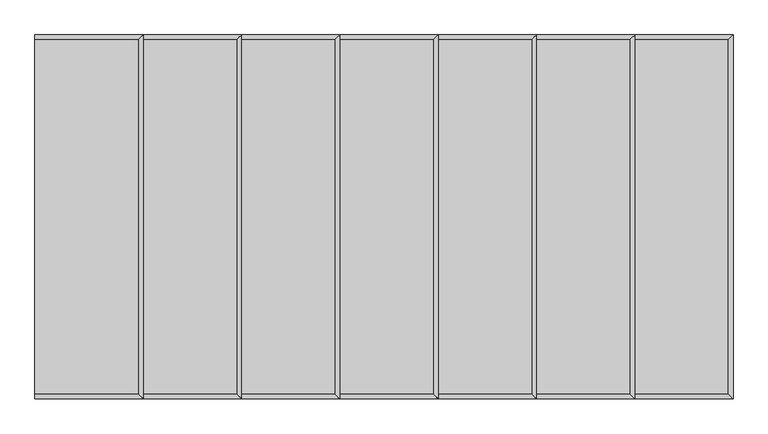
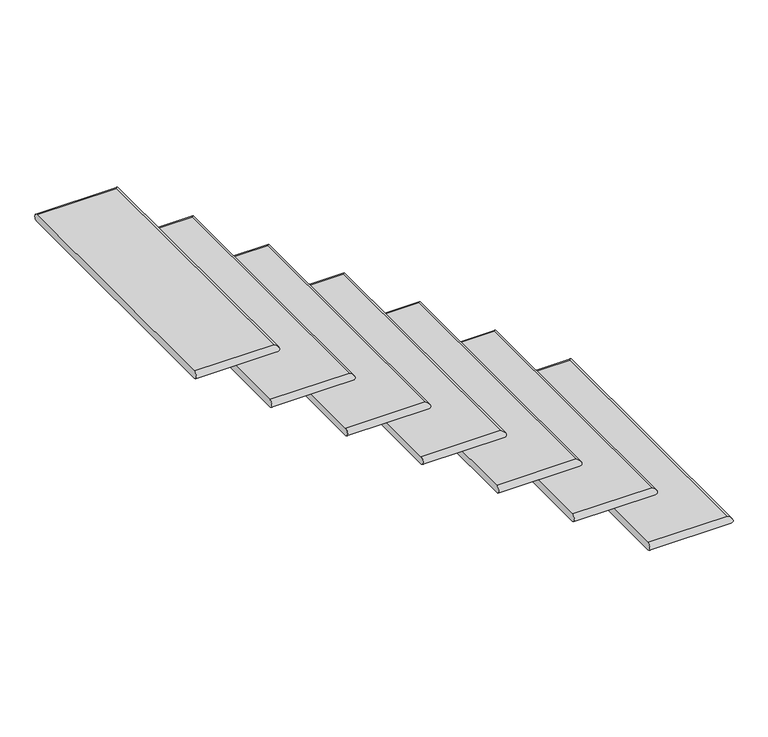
"""IFC4 building model written with IfcOpenShell, lengths in millimetres: stair flight geometry."""

from ifc_helpers import new_model, si_unit, frame, origin, place, context, project, spatial, circle_curve, ellipse_curve, source, transform, mapped, element, save
from ifc_brep_helpers import plane_surface, cylinder_surface, advanced_brep


def stair_flight_a4a1ad23(model_context):
    return source(origin(), model_context, "Body", "AdvancedBrep", [
        advanced_brep(
        [(-16016.7481446, -9150.4871906, 1689.1), (-16016.7481446, -9150.4871906, 1714.5), (-16016.7481446, -10064.8871906, 1714.5), (-16016.7481446, -10064.8871906, 1689.1), (-16283.4481446, -9150.4871906, 1714.5), (-16283.4481446, -10064.8871906, 1714.5), (-16283.4481446, -10064.8871906, 1689.1), (-16283.4481446, -9150.4871906, 1689.1)],
        [
            (0, 1, ellipse_curve(frame((-16016.7481446, -9150.4871906, 1701.8), z_axis=(0.7071067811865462, -0.7071067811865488, 0.0), x_axis=(0.7071067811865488, 0.7071067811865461, 0.0)), 17.9605122, 12.7)),
            (1, 2),
            (2, 3, ellipse_curve(frame((-16016.7481446, -10064.8871906, 1701.8), z_axis=(0.7071067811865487, 0.7071067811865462, 0.0), x_axis=(-0.7071067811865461, 0.7071067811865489, 0.0)), 17.9605122, 12.7)),
            (3, 0),
            (4, 5),
            (5, 2),
            (1, 4),
            (6, 7),
            (7, 0),
            (3, 6),
            (4, 7, circle_curve(frame((-16283.4481446, -9150.4871906, 1701.8), z_axis=(-1.0, 0.0, 0.0), x_axis=(0.0, -1.0, 0.0)), 12.7)),
            (6, 5, circle_curve(frame((-16283.4481446, -10064.8871906, 1701.8), z_axis=(-1.0, 0.0, 0.0), x_axis=(0.0, 1.0, 0.0)), 12.7)),
        ],
        [
            cylinder_surface(frame((-16016.7481446, -9150.4871906, 1701.8), z_axis=(0.0, 1.0, 0.0), x_axis=(-1.0, 0.0, 0.0)), 12.7),
            plane_surface(frame((-16004.0481446, -10064.8871906, 1714.5), z_axis=(0.0, 0.0, 1.0), x_axis=(1.0, 0.0, 0.0))),
            plane_surface(frame((-16004.0481446, -10064.8871906, 1689.1), z_axis=(0.0, 0.0, -1.0), x_axis=(-1.0, 0.0, 0.0))),
            plane_surface(frame((-16283.4481446, -9150.4871906, 1714.5), z_axis=(-1.0, 0.0, 0.0), x_axis=(0.0, 0.0, -1.0))),
            cylinder_surface(frame((-16283.4481446, -9150.4871906, 1701.8), z_axis=(-1.0, 0.0, 0.0), x_axis=(0.0, -1.0, 0.0)), 12.7),
            cylinder_surface(frame((-16016.7481446, -10064.8871906, 1701.8), z_axis=(1.0, 0.0, 0.0), x_axis=(0.0, 1.0, 0.0)), 12.7),
        ],
        [
            (0, [[1, 2, 3, 4]]),
            (1, [[5, 6, -2, 7]]),
            (2, [[8, 9, -4, 10]]),
            (3, [[-5, 11, -8, 12]]),
            (4, [[-11, -7, -1, -9]]),
            (5, [[-3, -6, -12, -10]]),
        ],
    ),
        advanced_brep(
        [(-16537.4481446, -9150.4871906, 1905.0), (-16537.4481446, -10064.8871906, 1905.0), (-16270.7481446, -10064.8871906, 1905.0), (-16270.7481446, -9150.4871906, 1905.0), (-16537.4481446, -10064.8871906, 1879.6), (-16537.4481446, -9150.4871906, 1879.6), (-16270.7481446, -9150.4871906, 1879.6), (-16270.7481446, -10064.8871906, 1879.6)],
        [
            (0, 1),
            (1, 2),
            (2, 3),
            (3, 0),
            (4, 5),
            (5, 6),
            (6, 7),
            (7, 4),
            (0, 5, circle_curve(frame((-16537.4481446, -9150.4871906, 1892.3), z_axis=(-1.0, 0.0, 0.0), x_axis=(0.0, -1.0, 0.0)), 12.7)),
            (4, 1, circle_curve(frame((-16537.4481446, -10064.8871906, 1892.3), z_axis=(-1.0, 0.0, 0.0), x_axis=(0.0, 1.0, 0.0)), 12.7)),
            (6, 3, ellipse_curve(frame((-16270.7481446, -9150.4871906, 1892.3), z_axis=(0.7071067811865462, -0.7071067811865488, 0.0), x_axis=(0.7071067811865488, 0.7071067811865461, 0.0)), 17.9605122, 12.7)),
            (2, 7, ellipse_curve(frame((-16270.7481446, -10064.8871906, 1892.3), z_axis=(0.7071067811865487, 0.7071067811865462, 0.0), x_axis=(-0.7071067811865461, 0.7071067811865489, 0.0)), 17.9605122, 12.7)),
        ],
        [
            plane_surface(frame((-16258.0481446, -10064.8871906, 1905.0), z_axis=(0.0, 0.0, 1.0), x_axis=(1.0, 0.0, 0.0))),
            plane_surface(frame((-16258.0481446, -10064.8871906, 1879.6), z_axis=(0.0, 0.0, -1.0), x_axis=(-1.0, 0.0, 0.0))),
            plane_surface(frame((-16537.4481446, -9150.4871906, 1905.0), z_axis=(-1.0, 0.0, 0.0), x_axis=(0.0, 0.0, -1.0))),
            cylinder_surface(frame((-16270.7481446, -9150.4871906, 1892.3), z_axis=(0.0, 1.0, 0.0), x_axis=(-1.0, 0.0, 0.0)), 12.7),
            cylinder_surface(frame((-16537.4481446, -9150.4871906, 1892.3), z_axis=(-1.0, 0.0, 0.0), x_axis=(0.0, -1.0, 0.0)), 12.7),
            cylinder_surface(frame((-16270.7481446, -10064.8871906, 1892.3), z_axis=(1.0, 0.0, 0.0), x_axis=(0.0, 1.0, 0.0)), 12.7),
        ],
        [
            (0, [[1, 2, 3, 4]]),
            (1, [[5, 6, 7, 8]]),
            (2, [[-1, 9, -5, 10]]),
            (3, [[11, -3, 12, -7]]),
            (4, [[-9, -4, -11, -6]]),
            (5, [[-12, -2, -10, -8]]),
        ],
    ),
        advanced_brep(
        [(-16791.4481446, -9150.4871906, 2095.5), (-16791.4481446, -10064.8871906, 2095.5), (-16524.7481446, -10064.8871906, 2095.5), (-16524.7481446, -9150.4871906, 2095.5), (-16791.4481446, -10064.8871906, 2070.1), (-16791.4481446, -9150.4871906, 2070.1), (-16524.7481446, -9150.4871906, 2070.1), (-16524.7481446, -10064.8871906, 2070.1)],
        [
            (0, 1),
            (1, 2),
            (2, 3),
            (3, 0),
            (4, 5),
            (5, 6),
            (6, 7),
            (7, 4),
            (0, 5, circle_curve(frame((-16791.4481446, -9150.4871906, 2082.8), z_axis=(-1.0, 0.0, 0.0), x_axis=(0.0, -1.0, 0.0)), 12.7)),
            (4, 1, circle_curve(frame((-16791.4481446, -10064.8871906, 2082.8), z_axis=(-1.0, 0.0, 0.0), x_axis=(0.0, 1.0, 0.0)), 12.7)),
            (6, 3, ellipse_curve(frame((-16524.7481446, -9150.4871906, 2082.8), z_axis=(0.7071067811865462, -0.7071067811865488, 0.0), x_axis=(0.7071067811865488, 0.7071067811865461, 0.0)), 17.9605122, 12.7)),
            (2, 7, ellipse_curve(frame((-16524.7481446, -10064.8871906, 2082.8), z_axis=(0.7071067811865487, 0.7071067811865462, 0.0), x_axis=(-0.7071067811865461, 0.7071067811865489, 0.0)), 17.9605122, 12.7)),
        ],
        [
            plane_surface(frame((-16512.0481446, -10064.8871906, 2095.5), z_axis=(0.0, 0.0, 1.0), x_axis=(1.0, 0.0, 0.0))),
            plane_surface(frame((-16512.0481446, -10064.8871906, 2070.1), z_axis=(0.0, 0.0, -1.0), x_axis=(-1.0, 0.0, 0.0))),
            plane_surface(frame((-16791.4481446, -9150.4871906, 2095.5), z_axis=(-1.0, 0.0, 0.0), x_axis=(0.0, 0.0, -1.0))),
            cylinder_surface(frame((-16524.7481446, -9150.4871906, 2082.8), z_axis=(0.0, 1.0, 0.0), x_axis=(-1.0, 0.0, 0.0)), 12.7),
            cylinder_surface(frame((-16791.4481446, -9150.4871906, 2082.8), z_axis=(-1.0, 0.0, 0.0), x_axis=(0.0, -1.0, 0.0)), 12.7),
            cylinder_surface(frame((-16524.7481446, -10064.8871906, 2082.8), z_axis=(1.0, 0.0, 0.0), x_axis=(0.0, 1.0, 0.0)), 12.7),
        ],
        [
            (0, [[1, 2, 3, 4]]),
            (1, [[5, 6, 7, 8]]),
            (2, [[-1, 9, -5, 10]]),
            (3, [[11, -3, 12, -7]]),
            (4, [[-9, -4, -11, -6]]),
            (5, [[-12, -2, -10, -8]]),
        ],
    ),
        advanced_brep(
        [(-17045.4481446, -9150.4871906, 2286.0), (-17045.4481446, -10064.8871906, 2286.0), (-16778.7481446, -10064.8871906, 2286.0), (-16778.7481446, -9150.4871906, 2286.0), (-17045.4481446, -10064.8871906, 2260.6), (-17045.4481446, -9150.4871906, 2260.6), (-16778.7481446, -9150.4871906, 2260.6), (-16778.7481446, -10064.8871906, 2260.6)],
        [
            (0, 1),
            (1, 2),
            (2, 3),
            (3, 0),
            (4, 5),
            (5, 6),
            (6, 7),
            (7, 4),
            (0, 5, circle_curve(frame((-17045.4481446, -9150.4871906, 2273.3), z_axis=(-1.0, 0.0, 0.0), x_axis=(0.0, -1.0, 0.0)), 12.7)),
            (4, 1, circle_curve(frame((-17045.4481446, -10064.8871906, 2273.3), z_axis=(-1.0, 0.0, 0.0), x_axis=(0.0, 1.0, 0.0)), 12.7)),
            (6, 3, ellipse_curve(frame((-16778.7481446, -9150.4871906, 2273.3), z_axis=(0.7071067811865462, -0.7071067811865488, 0.0), x_axis=(0.7071067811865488, 0.7071067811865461, 0.0)), 17.9605122, 12.7)),
            (2, 7, ellipse_curve(frame((-16778.7481446, -10064.8871906, 2273.3), z_axis=(0.7071067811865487, 0.7071067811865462, 0.0), x_axis=(-0.7071067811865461, 0.7071067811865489, 0.0)), 17.9605122, 12.7)),
        ],
        [
            plane_surface(frame((-16766.0481446, -10064.8871906, 2286.0), z_axis=(0.0, 0.0, 1.0), x_axis=(1.0, 0.0, 0.0))),
            plane_surface(frame((-16766.0481446, -10064.8871906, 2260.6), z_axis=(0.0, 0.0, -1.0), x_axis=(-1.0, 0.0, 0.0))),
            plane_surface(frame((-17045.4481446, -9150.4871906, 2286.0), z_axis=(-1.0, 0.0, 0.0), x_axis=(0.0, 0.0, -1.0))),
            cylinder_surface(frame((-16778.7481446, -9150.4871906, 2273.3), z_axis=(0.0, 1.0, 0.0), x_axis=(-1.0, 0.0, 0.0)), 12.7),
            cylinder_surface(frame((-17045.4481446, -9150.4871906, 2273.3), z_axis=(-1.0, 0.0, 0.0), x_axis=(0.0, -1.0, 0.0)), 12.7),
            cylinder_surface(frame((-16778.7481446, -10064.8871906, 2273.3), z_axis=(1.0, 0.0, 0.0), x_axis=(0.0, 1.0, 0.0)), 12.7),
        ],
        [
            (0, [[1, 2, 3, 4]]),
            (1, [[5, 6, 7, 8]]),
            (2, [[-1, 9, -5, 10]]),
            (3, [[11, -3, 12, -7]]),
            (4, [[-9, -4, -11, -6]]),
            (5, [[-12, -2, -10, -8]]),
        ],
    ),
        advanced_brep(
        [(-17299.4481446, -9150.4871906, 2476.5), (-17299.4481446, -10064.8871906, 2476.5), (-17032.7481446, -10064.8871906, 2476.5), (-17032.7481446, -9150.4871906, 2476.5), (-17299.4481446, -10064.8871906, 2451.1), (-17299.4481446, -9150.4871906, 2451.1), (-17032.7481446, -9150.4871906, 2451.1), (-17032.7481446, -10064.8871906, 2451.1)],
        [
            (0, 1),
            (1, 2),
            (2, 3),
            (3, 0),
            (4, 5),
            (5, 6),
            (6, 7),
            (7, 4),
            (0, 5, circle_curve(frame((-17299.4481446, -9150.4871906, 2463.8), z_axis=(-1.0, 0.0, 0.0), x_axis=(0.0, -1.0, 0.0)), 12.7)),
            (4, 1, circle_curve(frame((-17299.4481446, -10064.8871906, 2463.8), z_axis=(-1.0, 0.0, 0.0), x_axis=(0.0, 1.0, 0.0)), 12.7)),
            (6, 3, ellipse_curve(frame((-17032.7481446, -9150.4871906, 2463.8), z_axis=(0.7071067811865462, -0.7071067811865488, 0.0), x_axis=(0.7071067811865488, 0.7071067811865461, 0.0)), 17.9605122, 12.7)),
            (2, 7, ellipse_curve(frame((-17032.7481446, -10064.8871906, 2463.8), z_axis=(0.7071067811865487, 0.7071067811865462, 0.0), x_axis=(-0.7071067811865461, 0.7071067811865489, 0.0)), 17.9605122, 12.7)),
        ],
        [
            plane_surface(frame((-17020.0481446, -10064.8871906, 2476.5), z_axis=(0.0, 0.0, 1.0), x_axis=(1.0, 0.0, 0.0))),
            plane_surface(frame((-17020.0481446, -10064.8871906, 2451.1), z_axis=(0.0, 0.0, -1.0), x_axis=(-1.0, 0.0, 0.0))),
            plane_surface(frame((-17299.4481446, -9150.4871906, 2476.5), z_axis=(-1.0, 0.0, 0.0), x_axis=(0.0, 0.0, -1.0))),
            cylinder_surface(frame((-17032.7481446, -9150.4871906, 2463.8), z_axis=(0.0, 1.0, 0.0), x_axis=(-1.0, 0.0, 0.0)), 12.7),
            cylinder_surface(frame((-17299.4481446, -9150.4871906, 2463.8), z_axis=(-1.0, 0.0, 0.0), x_axis=(0.0, -1.0, 0.0)), 12.7),
            cylinder_surface(frame((-17032.7481446, -10064.8871906, 2463.8), z_axis=(1.0, 0.0, 0.0), x_axis=(0.0, 1.0, 0.0)), 12.7),
        ],
        [
            (0, [[1, 2, 3, 4]]),
            (1, [[5, 6, 7, 8]]),
            (2, [[-1, 9, -5, 10]]),
            (3, [[11, -3, 12, -7]]),
            (4, [[-9, -4, -11, -6]]),
            (5, [[-12, -2, -10, -8]]),
        ],
    ),
        advanced_brep(
        [(-17553.4481446, -9150.4871906, 2667.0), (-17553.4481446, -10064.8871906, 2667.0), (-17286.7481446, -10064.8871906, 2667.0), (-17286.7481446, -9150.4871906, 2667.0), (-17553.4481446, -10064.8871906, 2641.6), (-17553.4481446, -9150.4871906, 2641.6), (-17286.7481446, -9150.4871906, 2641.6), (-17286.7481446, -10064.8871906, 2641.6)],
        [
            (0, 1),
            (1, 2),
            (2, 3),
            (3, 0),
            (4, 5),
            (5, 6),
            (6, 7),
            (7, 4),
            (0, 5, circle_curve(frame((-17553.4481446, -9150.4871906, 2654.3), z_axis=(-1.0, 0.0, 0.0), x_axis=(0.0, -1.0, 0.0)), 12.7)),
            (4, 1, circle_curve(frame((-17553.4481446, -10064.8871906, 2654.3), z_axis=(-1.0, 0.0, 0.0), x_axis=(0.0, 1.0, 0.0)), 12.7)),
            (6, 3, ellipse_curve(frame((-17286.7481446, -9150.4871906, 2654.3), z_axis=(0.7071067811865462, -0.7071067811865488, 0.0), x_axis=(0.7071067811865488, 0.7071067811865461, 0.0)), 17.9605122, 12.7)),
            (2, 7, ellipse_curve(frame((-17286.7481446, -10064.8871906, 2654.3), z_axis=(0.7071067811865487, 0.7071067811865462, 0.0), x_axis=(-0.7071067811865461, 0.7071067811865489, 0.0)), 17.9605122, 12.7)),
        ],
        [
            plane_surface(frame((-17274.0481446, -10064.8871906, 2667.0), z_axis=(0.0, 0.0, 1.0), x_axis=(1.0, 0.0, 0.0))),
            plane_surface(frame((-17274.0481446, -10064.8871906, 2641.6), z_axis=(0.0, 0.0, -1.0), x_axis=(-1.0, 0.0, 0.0))),
            plane_surface(frame((-17553.4481446, -9150.4871906, 2667.0), z_axis=(-1.0, 0.0, 0.0), x_axis=(0.0, 0.0, -1.0))),
            cylinder_surface(frame((-17286.7481446, -9150.4871906, 2654.3), z_axis=(0.0, 1.0, 0.0), x_axis=(-1.0, 0.0, 0.0)), 12.7),
            cylinder_surface(frame((-17553.4481446, -9150.4871906, 2654.3), z_axis=(-1.0, 0.0, 0.0), x_axis=(0.0, -1.0, 0.0)), 12.7),
            cylinder_surface(frame((-17286.7481446, -10064.8871906, 2654.3), z_axis=(1.0, 0.0, 0.0), x_axis=(0.0, 1.0, 0.0)), 12.7),
        ],
        [
            (0, [[1, 2, 3, 4]]),
            (1, [[5, 6, 7, 8]]),
            (2, [[-1, 9, -5, 10]]),
            (3, [[11, -3, 12, -7]]),
            (4, [[-9, -4, -11, -6]]),
            (5, [[-12, -2, -10, -8]]),
        ],
    ),
        advanced_brep(
        [(-17807.4481446, -9150.4871906, 2857.5), (-17807.4481446, -10064.8871906, 2857.5), (-17540.7481446, -10064.8871906, 2857.5), (-17540.7481446, -9150.4871906, 2857.5), (-17807.4481446, -10064.8871906, 2832.1), (-17807.4481446, -9150.4871906, 2832.1), (-17540.7481446, -9150.4871906, 2832.1), (-17540.7481446, -10064.8871906, 2832.1)],
        [
            (0, 1),
            (1, 2),
            (2, 3),
            (3, 0),
            (4, 5),
            (5, 6),
            (6, 7),
            (7, 4),
            (0, 5, circle_curve(frame((-17807.4481446, -9150.4871906, 2844.8), z_axis=(-1.0, 0.0, 0.0), x_axis=(0.0, -1.0, 0.0)), 12.7)),
            (4, 1, circle_curve(frame((-17807.4481446, -10064.8871906, 2844.8), z_axis=(-1.0, 0.0, 0.0), x_axis=(0.0, 1.0, 0.0)), 12.7)),
            (6, 3, ellipse_curve(frame((-17540.7481446, -9150.4871906, 2844.8), z_axis=(0.7071067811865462, -0.7071067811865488, 0.0), x_axis=(0.7071067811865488, 0.7071067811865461, 0.0)), 17.9605122, 12.7)),
            (2, 7, ellipse_curve(frame((-17540.7481446, -10064.8871906, 2844.8), z_axis=(0.7071067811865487, 0.7071067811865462, 0.0), x_axis=(-0.7071067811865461, 0.7071067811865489, 0.0)), 17.9605122, 12.7)),
        ],
        [
            plane_surface(frame((-17528.0481446, -10064.8871906, 2857.5), z_axis=(0.0, 0.0, 1.0), x_axis=(1.0, 0.0, 0.0))),
            plane_surface(frame((-17528.0481446, -10064.8871906, 2832.1), z_axis=(0.0, 0.0, -1.0), x_axis=(-1.0, 0.0, 0.0))),
            plane_surface(frame((-17807.4481446, -9150.4871906, 2857.5), z_axis=(-1.0, 0.0, 0.0), x_axis=(0.0, 0.0, -1.0))),
            cylinder_surface(frame((-17540.7481446, -9150.4871906, 2844.8), z_axis=(0.0, 1.0, 0.0), x_axis=(-1.0, 0.0, 0.0)), 12.7),
            cylinder_surface(frame((-17807.4481446, -9150.4871906, 2844.8), z_axis=(-1.0, 0.0, 0.0), x_axis=(0.0, -1.0, 0.0)), 12.7),
            cylinder_surface(frame((-17540.7481446, -10064.8871906, 2844.8), z_axis=(1.0, 0.0, 0.0), x_axis=(0.0, 1.0, 0.0)), 12.7),
        ],
        [
            (0, [[1, 2, 3, 4]]),
            (1, [[5, 6, 7, 8]]),
            (2, [[-1, 9, -5, 10]]),
            (3, [[11, -3, 12, -7]]),
            (4, [[-9, -4, -11, -6]]),
            (5, [[-12, -2, -10, -8]]),
        ],
    ),
    ])


if __name__ == "__main__":
    model = new_model("IFC4")
    model_context = context("Model", 3, world=origin())
    ifc_project = project(units=[si_unit("LENGTHUNIT", "METRE", prefix="MILLI")], contexts=[model_context])
    site = spatial("IfcSite", under=ifc_project)
    building = spatial("IfcBuilding", under=site)
    placement = place(None, origin())
    stair_flight_shape = stair_flight_a4a1ad23(model_context)
    element("IfcStairFlight", 1, ObjectType="Unassigned Steps with 1\" Tread 1\" Nosing", at=placement, inside=building, context=model_context, shape_type="MappedRepresentation", body=[
        mapped(stair_flight_shape, transform((0.0, 0.0, 0.0), x_axis=(1.0, 0.0, 0.0), y_axis=(0.0, 1.0, 0.0), z_axis=(0.0, 0.0, 1.0))),
    ])
    save(model, "model.ifc")
